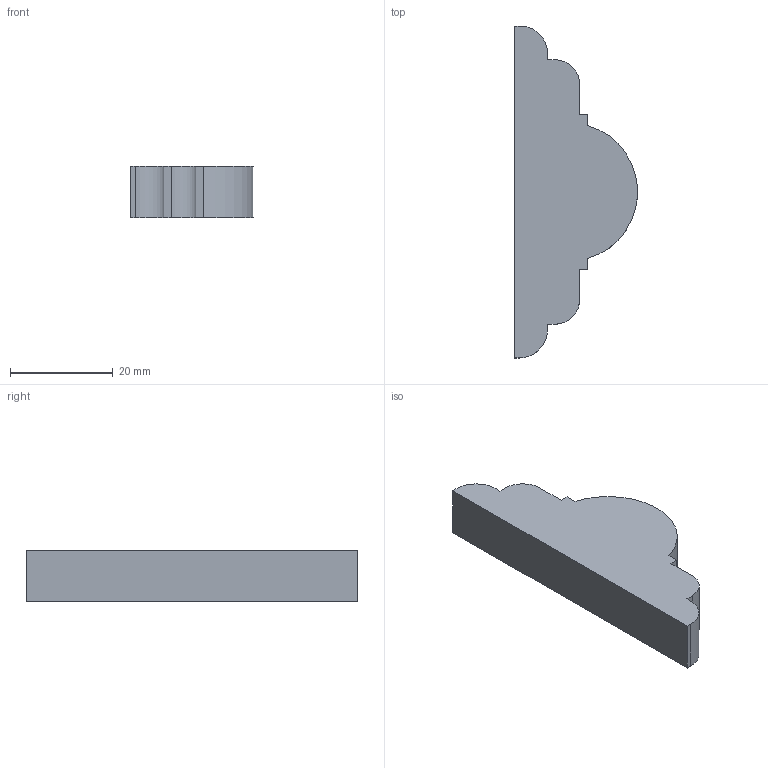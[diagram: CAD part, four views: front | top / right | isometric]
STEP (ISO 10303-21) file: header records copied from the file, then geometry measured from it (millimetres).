
FILE_DESCRIPTION (( 'STEP AP203' ), '1' );
FILE_NAME ('AB303.STEP', '2024-02-17T10:09:10', ( '' ), ( '' ), 'SwSTEP 2.0', 'SolidWorks 2020', '' );
FILE_SCHEMA (( 'CONFIG_CONTROL_DESIGN' ));
Length unit declared in the file: millimetre
Products named in the file (1): AB303
Bounding box: 23.88 x 64.67 x 10 mm (x, y, z)
Volume: 9462.9 mm3; surface area: 3470.3 mm2
Topology: 1 solids, 1 shells, 20 faces, 54 edges, 36 vertices
Faces by surface type: plane 15, cylinder 5
Entity records: 705 total; most frequent: CARTESIAN_POINT 111, ORIENTED_EDGE 108, DIRECTION 106, EDGE_CURVE 54, VECTOR 44, LINE 44, VERTEX_POINT 36, AXIS2_PLACEMENT_3D 31
